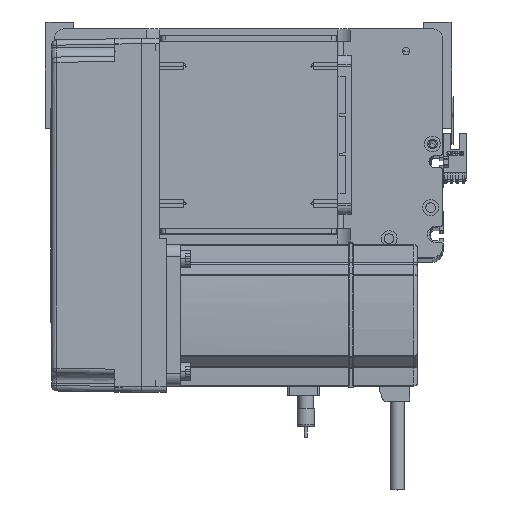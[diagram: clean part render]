
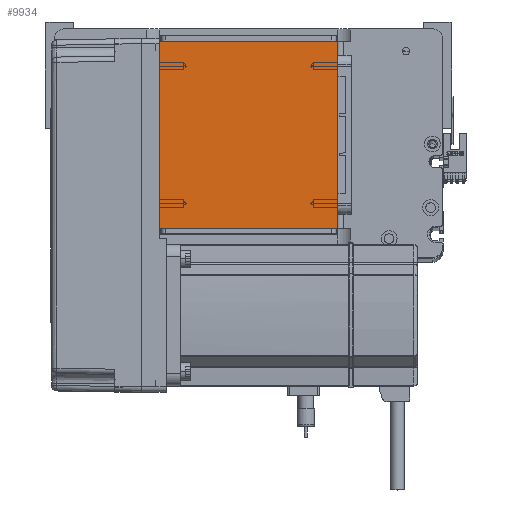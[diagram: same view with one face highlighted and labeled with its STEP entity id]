
A CAD part, top view. The second image highlights one B-rep face of the part: STEP entity #9934.
In plain terms, the highlighted planar face has unit normal (0, 0, 1).
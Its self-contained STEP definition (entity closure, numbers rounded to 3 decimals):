
#3397 = DIRECTION ( 'NONE',  ( 0., 1., 0. ) ) ;
#5053 = ORIENTED_EDGE ( 'NONE', *, *, #37279, .T. ) ;
#5761 = LINE ( 'NONE', #31345, #35922 ) ;
#7183 = DIRECTION ( 'NONE',  ( 1., 0., 0. ) ) ;
#7368 = DIRECTION ( 'NONE',  ( -1., 0., 0. ) ) ;
#8047 = VECTOR ( 'NONE', #3397, 1000. ) ;
#8224 = ORIENTED_EDGE ( 'NONE', *, *, #15556, .T. ) ;
#9934 = ADVANCED_FACE ( 'NONE', ( #9968 ), #12958, .T. ) ;
#9968 = FACE_OUTER_BOUND ( 'NONE', #51906, .T. ) ;
#12780 = DIRECTION ( 'NONE',  ( 0., 0., 1. ) ) ;
#12958 = PLANE ( 'NONE',  #43164 ) ;
#13834 = VERTEX_POINT ( 'NONE', #22761 ) ;
#15312 = CARTESIAN_POINT ( 'NONE',  ( 50.5, 122., 115. ) ) ;
#15556 = EDGE_CURVE ( 'NONE', #46460, #47690, #30127, .T. ) ;
#16756 = ORIENTED_EDGE ( 'NONE', *, *, #35563, .T. ) ;
#20532 = DIRECTION ( 'NONE',  ( 1., 0., 0. ) ) ;
#22761 = CARTESIAN_POINT ( 'NONE',  ( -50.5, 122., 115. ) ) ;
#24528 = CARTESIAN_POINT ( 'NONE',  ( 50.5, 16., 115. ) ) ;
#28177 = CARTESIAN_POINT ( 'NONE',  ( -50.5, 122., 115. ) ) ;
#30127 = LINE ( 'NONE', #15312, #8047 ) ;
#31345 = CARTESIAN_POINT ( 'NONE',  ( -50.5, 16., 115. ) ) ;
#31862 = ORIENTED_EDGE ( 'NONE', *, *, #35568, .T. ) ;
#32192 = LINE ( 'NONE', #43720, #47270 ) ;
#33921 = VERTEX_POINT ( 'NONE', #41842 ) ;
#35563 = EDGE_CURVE ( 'NONE', #33921, #46460, #5761, .T. ) ;
#35568 = EDGE_CURVE ( 'NONE', #13834, #33921, #32192, .T. ) ;
#35922 = VECTOR ( 'NONE', #7183, 1000. ) ;
#36266 = VECTOR ( 'NONE', #7368, 1000. ) ;
#37279 = EDGE_CURVE ( 'NONE', #47690, #13834, #49510, .T. ) ;
#41842 = CARTESIAN_POINT ( 'NONE',  ( -50.5, 16., 115. ) ) ;
#43164 = AXIS2_PLACEMENT_3D ( 'NONE', #48657, #12780, #20532 ) ;
#43720 = CARTESIAN_POINT ( 'NONE',  ( -50.5, 122., 115. ) ) ;
#44562 = CARTESIAN_POINT ( 'NONE',  ( 50.5, 122., 115. ) ) ;
#46460 = VERTEX_POINT ( 'NONE', #24528 ) ;
#47270 = VECTOR ( 'NONE', #47789, 1000. ) ;
#47690 = VERTEX_POINT ( 'NONE', #44562 ) ;
#47789 = DIRECTION ( 'NONE',  ( 0., -1., 0. ) ) ;
#48657 = CARTESIAN_POINT ( 'NONE',  ( 0., 0., 115. ) ) ;
#49510 = LINE ( 'NONE', #28177, #36266 ) ;
#51906 = EDGE_LOOP ( 'NONE', ( #31862, #16756, #8224, #5053 ) ) ;
